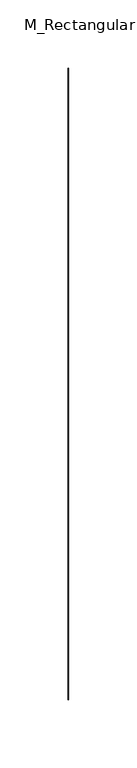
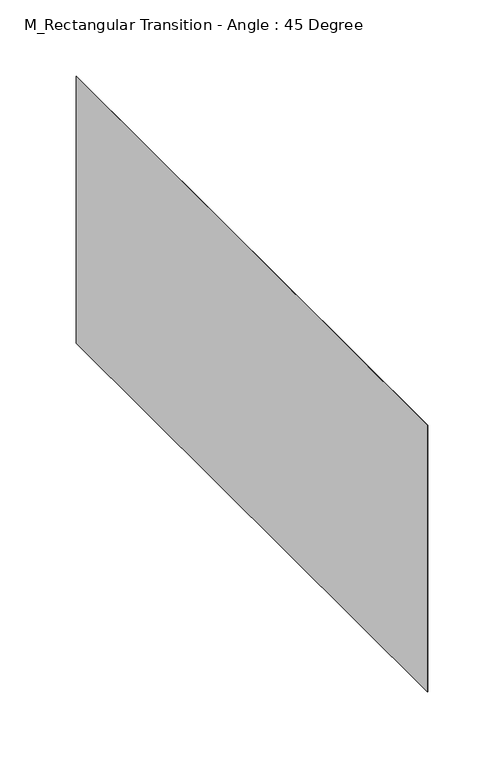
"""IFC4 building model written with IfcOpenShell, lengths in millimetres: duct fitting geometry, M_Rectangular Transition - Angle : 45 Degree."""

from ifc_helpers import new_model, si_unit, origin, place, context, project, spatial, faceted_brep, source, transform, mapped, element, save


def m_rectangular_transition_angle_45_degree_27e6000f(model_context):
    return source(origin(), model_context, "Body", "Brep", [
        faceted_brep([(0.362132, -231.0, 107.0), (0.362132, -231.0, -107.0), (0.362132, 231.0, -107.0), (0.362132, 231.0, 107.0), (0.0, -230.9375, 107.15), (0.0, 230.9375, 107.15), (0.0, 230.9375, -107.15), (0.0, -230.9375, -107.15)], [[[0, 1, 2, 3]], [[4, 5, 6, 7]], [[4, 7, 1, 0]], [[7, 6, 2, 1]], [[6, 5, 3, 2]], [[5, 4, 0, 3]]]),
    ])


if __name__ == "__main__":
    model = new_model("IFC4")
    model_context = context("Model", 3, world=origin())
    ifc_project = project(units=[si_unit("LENGTHUNIT", "METRE", prefix="MILLI")], contexts=[model_context])
    site = spatial("IfcSite", under=ifc_project)
    building = spatial("IfcBuilding", under=site)
    placement = place(None, origin())
    m_rectangular_transition_angle_45_degree_shape = m_rectangular_transition_angle_45_degree_27e6000f(model_context)
    element("IfcDuctFitting", 1, ObjectType="M_Rectangular Transition - Angle : 45 Degree", at=placement, inside=building, context=model_context, shape_type="MappedRepresentation", body=[
        mapped(m_rectangular_transition_angle_45_degree_shape, transform((0.0, 0.0, 0.0), x_axis=(1.0, 0.0, 0.0), y_axis=(0.0, 1.0, 0.0), z_axis=(0.0, 0.0, 1.0))),
    ])
    save(model, "model.ifc")
